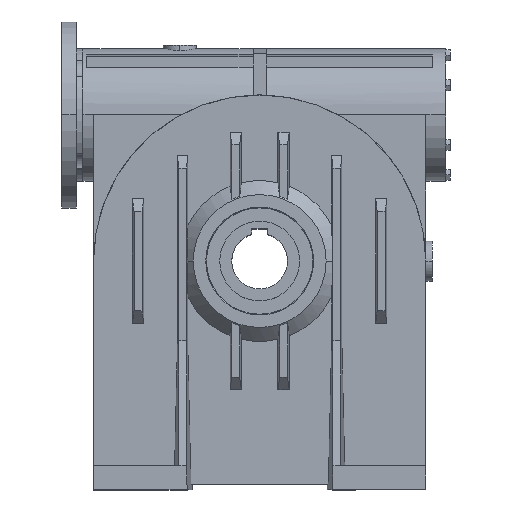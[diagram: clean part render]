
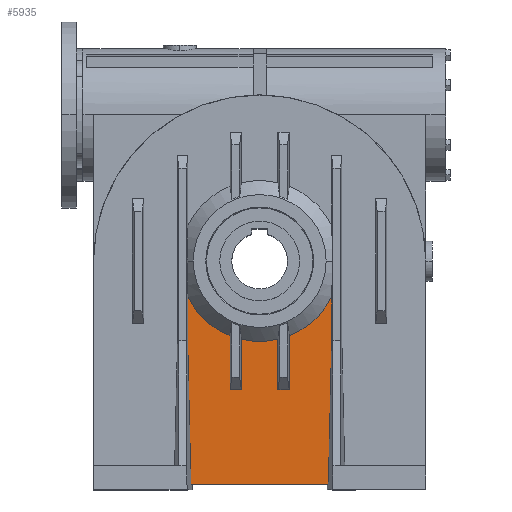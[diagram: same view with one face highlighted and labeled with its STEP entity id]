
A CAD part, top view. The second image highlights one B-rep face of the part: STEP entity #5935.
In plain terms, the highlighted planar face has unit normal (0, 0, 1).
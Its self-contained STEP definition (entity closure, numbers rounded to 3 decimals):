
#62 = ORIENTED_EDGE ( 'NONE', *, *, #1405, .F. ) ;
#159 = VERTEX_POINT ( 'NONE', #8652 ) ;
#370 = VECTOR ( 'NONE', #7303, 1000. ) ;
#475 = VERTEX_POINT ( 'NONE', #7691 ) ;
#739 = LINE ( 'NONE', #3492, #6085 ) ;
#741 = DIRECTION ( 'NONE',  ( 0., 0., -1. ) ) ;
#768 = FACE_OUTER_BOUND ( 'NONE', #5336, .T. ) ;
#897 = ORIENTED_EDGE ( 'NONE', *, *, #9643, .F. ) ;
#1046 = LINE ( 'NONE', #1466, #7599 ) ;
#1152 = DIRECTION ( 'NONE',  ( -0.023, -1., 0. ) ) ;
#1281 = CARTESIAN_POINT ( 'NONE',  ( -13.749, -42.964, 11.5 ) ) ;
#1298 = VECTOR ( 'NONE', #6177, 1000. ) ;
#1382 = ORIENTED_EDGE ( 'NONE', *, *, #10362, .F. ) ;
#1405 = EDGE_CURVE ( 'NONE', #5338, #6420, #8415, .T. ) ;
#1459 = VERTEX_POINT ( 'NONE', #4741 ) ;
#1466 = CARTESIAN_POINT ( 'NONE',  ( 54.169, -175., 11.5 ) ) ;
#1556 = EDGE_CURVE ( 'NONE', #2851, #9249, #2679, .T. ) ;
#1594 = VERTEX_POINT ( 'NONE', #7530 ) ;
#1598 = DIRECTION ( 'NONE',  ( -1., 0., 0. ) ) ;
#1954 = CARTESIAN_POINT ( 'NONE',  ( -51.706, -168., 11.5 ) ) ;
#2219 = CARTESIAN_POINT ( 'NONE',  ( -125., -168., 11.5 ) ) ;
#2407 = VECTOR ( 'NONE', #10867, 1000. ) ;
#2465 = LINE ( 'NONE', #10410, #3661 ) ;
#2480 = CIRCLE ( 'NONE', #7287, 60.5 ) ;
#2501 = EDGE_CURVE ( 'NONE', #9343, #475, #6395, .T. ) ;
#2502 = AXIS2_PLACEMENT_3D ( 'NONE', #10918, #741, #1598 ) ;
#2561 = DIRECTION ( 'NONE',  ( -1., 0., 0. ) ) ;
#2679 = LINE ( 'NONE', #10974, #2407 ) ;
#2832 = CARTESIAN_POINT ( 'NONE',  ( -51.706, -168., 11.5 ) ) ;
#2851 = VERTEX_POINT ( 'NONE', #9897 ) ;
#2896 = EDGE_CURVE ( 'NONE', #6420, #5500, #8920, .T. ) ;
#2930 = ORIENTED_EDGE ( 'NONE', *, *, #3243, .F. ) ;
#2964 = CARTESIAN_POINT ( 'NONE',  ( -13.749, -97., 11.5 ) ) ;
#2991 = CARTESIAN_POINT ( 'NONE',  ( 0., -97., 11.5 ) ) ;
#3059 = ORIENTED_EDGE ( 'NONE', *, *, #2896, .F. ) ;
#3134 = VECTOR ( 'NONE', #7796, 1000. ) ;
#3137 = EDGE_CURVE ( 'NONE', #7051, #5338, #7437, .T. ) ;
#3243 = EDGE_CURVE ( 'NONE', #4739, #2851, #6505, .T. ) ;
#3492 = CARTESIAN_POINT ( 'NONE',  ( -54.169, -154., 11.5 ) ) ;
#3514 = CARTESIAN_POINT ( 'NONE',  ( 22.251, -42.964, 11.5 ) ) ;
#3661 = VECTOR ( 'NONE', #1152, 1000. ) ;
#3713 = LINE ( 'NONE', #2219, #370 ) ;
#3846 = DIRECTION ( 'NONE',  ( 1., 0., 0. ) ) ;
#3849 = EDGE_CURVE ( 'NONE', #5500, #4739, #5576, .T. ) ;
#4115 = DIRECTION ( 'NONE',  ( 0., 0., 1. ) ) ;
#4177 = ORIENTED_EDGE ( 'NONE', *, *, #6341, .F. ) ;
#4195 = VECTOR ( 'NONE', #7182, 1000. ) ;
#4263 = CARTESIAN_POINT ( 'NONE',  ( -13.749, -58.917, 11.5 ) ) ;
#4264 = CARTESIAN_POINT ( 'NONE',  ( -22.251, -42.964, 11.5 ) ) ;
#4739 = VERTEX_POINT ( 'NONE', #8600 ) ;
#4741 = CARTESIAN_POINT ( 'NONE',  ( -54.169, -26.944, 11.5 ) ) ;
#4775 = DIRECTION ( 'NONE',  ( 0., 1., 0. ) ) ;
#4796 = ORIENTED_EDGE ( 'NONE', *, *, #3137, .F. ) ;
#5061 = VECTOR ( 'NONE', #8505, 1000. ) ;
#5219 = EDGE_CURVE ( 'NONE', #475, #9970, #1046, .T. ) ;
#5261 = DIRECTION ( 'NONE',  ( 0., 1., 0. ) ) ;
#5336 = EDGE_LOOP ( 'NONE', ( #897, #9933, #4177, #10883, #8334, #7649, #1382, #10037, #2930, #10810, #3059, #62, #4796, #9048 ) ) ;
#5338 = VERTEX_POINT ( 'NONE', #10813 ) ;
#5500 = VERTEX_POINT ( 'NONE', #4263 ) ;
#5576 = CIRCLE ( 'NONE', #10376, 60.5 ) ;
#5650 = CARTESIAN_POINT ( 'NONE',  ( 0., 0., 11.5 ) ) ;
#5935 = ADVANCED_FACE ( 'NONE', ( #768 ), #8391, .F. ) ;
#5962 = CARTESIAN_POINT ( 'NONE',  ( 0., 0., 11.5 ) ) ;
#6085 = VECTOR ( 'NONE', #5261, 1000. ) ;
#6153 = VECTOR ( 'NONE', #3846, 1000. ) ;
#6177 = DIRECTION ( 'NONE',  ( 0., -1., 0. ) ) ;
#6341 = EDGE_CURVE ( 'NONE', #159, #9924, #3713, .T. ) ;
#6395 = CIRCLE ( 'NONE', #7261, 60.5 ) ;
#6420 = VERTEX_POINT ( 'NONE', #2964 ) ;
#6462 = LINE ( 'NONE', #1954, #4195 ) ;
#6505 = LINE ( 'NONE', #8610, #1298 ) ;
#6627 = DIRECTION ( 'NONE',  ( -1., 0., 0. ) ) ;
#6638 = VECTOR ( 'NONE', #4775, 1000. ) ;
#6728 = DIRECTION ( 'NONE',  ( 0., 0., 1. ) ) ;
#7051 = VERTEX_POINT ( 'NONE', #7362 ) ;
#7182 = DIRECTION ( 'NONE',  ( -0.023, 1., 0. ) ) ;
#7261 = AXIS2_PLACEMENT_3D ( 'NONE', #5650, #4115, #7418 ) ;
#7277 = LINE ( 'NONE', #3514, #3134 ) ;
#7287 = AXIS2_PLACEMENT_3D ( 'NONE', #9909, #7532, #6627 ) ;
#7303 = DIRECTION ( 'NONE',  ( -1., 0., 0. ) ) ;
#7309 = CARTESIAN_POINT ( 'NONE',  ( 22.251, -56.26, 11.5 ) ) ;
#7362 = CARTESIAN_POINT ( 'NONE',  ( -22.251, -56.26, 11.5 ) ) ;
#7418 = DIRECTION ( 'NONE',  ( -1., 0., 0. ) ) ;
#7432 = DIRECTION ( 'NONE',  ( 0., -1., 0. ) ) ;
#7437 = LINE ( 'NONE', #4264, #5061 ) ;
#7530 = CARTESIAN_POINT ( 'NONE',  ( -54.169, -60., 11.5 ) ) ;
#7532 = DIRECTION ( 'NONE',  ( 0., 0., 1. ) ) ;
#7599 = VECTOR ( 'NONE', #7432, 1000. ) ;
#7649 = ORIENTED_EDGE ( 'NONE', *, *, #2501, .F. ) ;
#7691 = CARTESIAN_POINT ( 'NONE',  ( 54.169, -26.944, 11.5 ) ) ;
#7796 = DIRECTION ( 'NONE',  ( 0., 1., 0. ) ) ;
#8068 = CARTESIAN_POINT ( 'NONE',  ( 22.251, -97., 11.5 ) ) ;
#8334 = ORIENTED_EDGE ( 'NONE', *, *, #5219, .F. ) ;
#8391 = PLANE ( 'NONE',  #2502 ) ;
#8415 = LINE ( 'NONE', #2991, #6153 ) ;
#8505 = DIRECTION ( 'NONE',  ( 0., -1., 0. ) ) ;
#8527 = EDGE_CURVE ( 'NONE', #9970, #159, #2465, .T. ) ;
#8600 = CARTESIAN_POINT ( 'NONE',  ( 13.749, -58.917, 11.5 ) ) ;
#8610 = CARTESIAN_POINT ( 'NONE',  ( 13.749, -42.964, 11.5 ) ) ;
#8652 = CARTESIAN_POINT ( 'NONE',  ( 51.706, -168., 11.5 ) ) ;
#8920 = LINE ( 'NONE', #1281, #6638 ) ;
#9002 = EDGE_CURVE ( 'NONE', #9924, #1594, #6462, .T. ) ;
#9048 = ORIENTED_EDGE ( 'NONE', *, *, #9396, .F. ) ;
#9086 = CARTESIAN_POINT ( 'NONE',  ( 54.169, -60., 11.5 ) ) ;
#9249 = VERTEX_POINT ( 'NONE', #8068 ) ;
#9343 = VERTEX_POINT ( 'NONE', #7309 ) ;
#9396 = EDGE_CURVE ( 'NONE', #1459, #7051, #2480, .T. ) ;
#9643 = EDGE_CURVE ( 'NONE', #1594, #1459, #739, .T. ) ;
#9897 = CARTESIAN_POINT ( 'NONE',  ( 13.749, -97., 11.5 ) ) ;
#9909 = CARTESIAN_POINT ( 'NONE',  ( 0., 0., 11.5 ) ) ;
#9924 = VERTEX_POINT ( 'NONE', #2832 ) ;
#9933 = ORIENTED_EDGE ( 'NONE', *, *, #9002, .F. ) ;
#9970 = VERTEX_POINT ( 'NONE', #9086 ) ;
#10037 = ORIENTED_EDGE ( 'NONE', *, *, #1556, .F. ) ;
#10362 = EDGE_CURVE ( 'NONE', #9249, #9343, #7277, .T. ) ;
#10376 = AXIS2_PLACEMENT_3D ( 'NONE', #5962, #6728, #2561 ) ;
#10410 = CARTESIAN_POINT ( 'NONE',  ( 54.169, -60., 11.5 ) ) ;
#10810 = ORIENTED_EDGE ( 'NONE', *, *, #3849, .F. ) ;
#10813 = CARTESIAN_POINT ( 'NONE',  ( -22.251, -97., 11.5 ) ) ;
#10867 = DIRECTION ( 'NONE',  ( 1., 0., 0. ) ) ;
#10883 = ORIENTED_EDGE ( 'NONE', *, *, #8527, .F. ) ;
#10918 = CARTESIAN_POINT ( 'NONE',  ( 0., -42.964, 11.5 ) ) ;
#10974 = CARTESIAN_POINT ( 'NONE',  ( 0., -97., 11.5 ) ) ;
